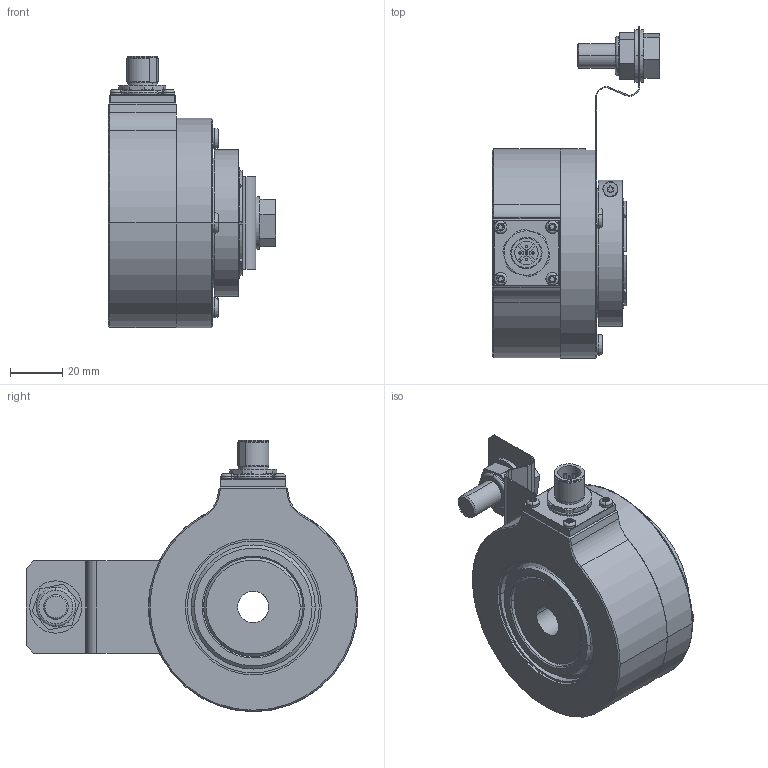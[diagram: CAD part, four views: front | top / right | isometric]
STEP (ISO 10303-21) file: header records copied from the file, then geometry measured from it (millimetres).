
FILE_DESCRIPTION (( 'STEP AP203' ), '1' );
FILE_NAME ('K80I.OXX.XXXXX.XH24812.6XRC6.step', '2025-12-09T10:20:21', ( '' ), ( '' ), 'SwSTEP 2.0', 'SolidWorks 2021', '' );
FILE_SCHEMA (( 'CONFIG_CONTROL_DESIGN' ));
Length unit declared in the file: millimetre
Products named in the file (1): K80I.OXX.XXXXX.XH24812.6XRC6
Bounding box: 63.95 x 127.03 x 103.88 mm (x, y, z)
Surface area: 82023.4 mm2 (no closed solid volume)
Topology: 0 solids, 16 shells, 693 faces, 1767 edges, 1138 vertices
Faces by surface type: cylinder 335, plane 255, cone 61, bspline 30, torus 12
Entity records: 24087 total; most frequent: CARTESIAN_POINT 6918, DIRECTION 3738, ORIENTED_EDGE 3502, EDGE_CURVE 1759, AXIS2_PLACEMENT_3D 1472, VERTEX_POINT 1138, CIRCLE 808, LINE 794
